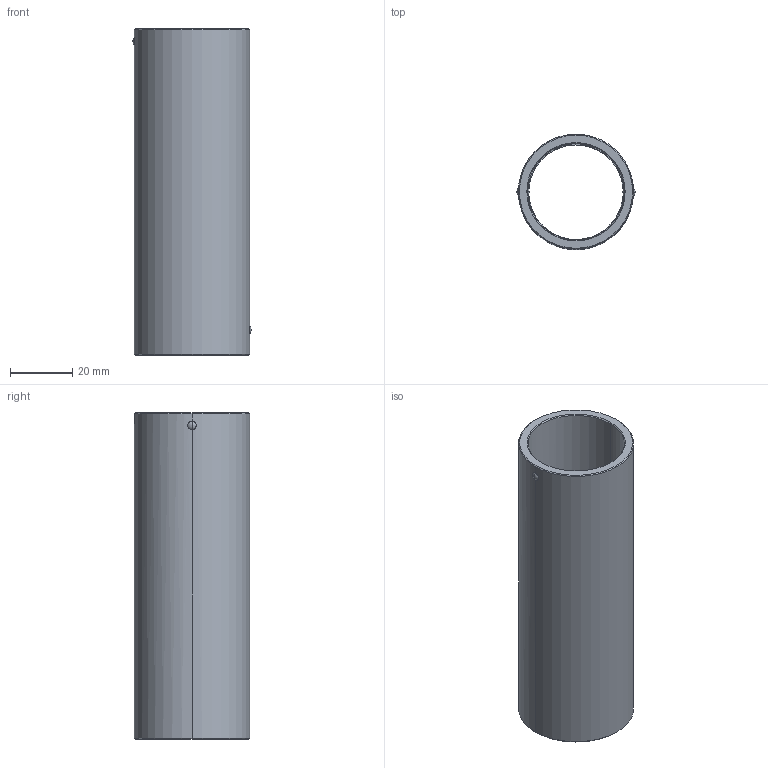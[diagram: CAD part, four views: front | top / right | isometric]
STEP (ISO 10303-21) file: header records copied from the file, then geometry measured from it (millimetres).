
FILE_DESCRIPTION(('CATIA V5 STEP Exchange'),'2;1');
FILE_NAME('C:\Users\Utente\Desktop\IO LAVORO\3D X SITO CF\X SITO\730\730-30x105.stp','2021-01-07T16:11:27+00:00',('none'),('none'),'CATIA Version 5 Release 20 GA (IN-10)','CATIA V5 STEP AP203','none');
FILE_SCHEMA(('CONFIG_CONTROL_DESIGN'));
Length unit declared in the file: millimetre
Products named in the file (1): 730-30x105
Bounding box: 37.99 x 37 x 105 mm (x, y, z)
Volume: 32702.9 mm3; surface area: 23419.4 mm2
Topology: 1 solids, 1 shells, 44 faces, 120 edges, 76 vertices
Faces by surface type: cylinder 18, cone 10, plane 8, sphere 8
Entity records: 1722 total; most frequent: CARTESIAN_POINT 655, ORIENTED_EDGE 240, DIRECTION 161, EDGE_CURVE 120, AXIS2_PLACEMENT_3D 80, VERTEX_POINT 76, EDGE_LOOP 48, B_SPLINE_CURVE_WITH_KNOTS 47
